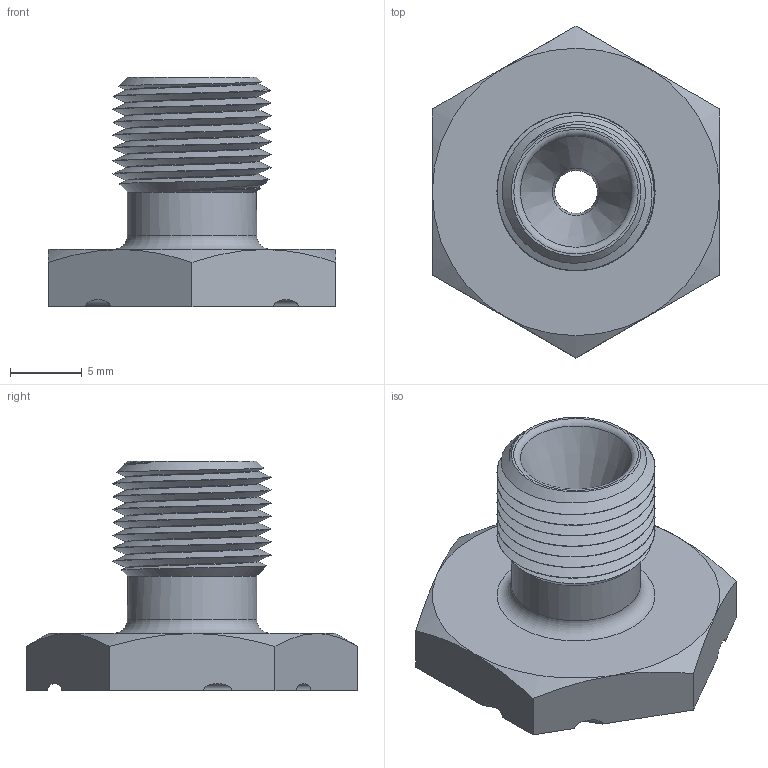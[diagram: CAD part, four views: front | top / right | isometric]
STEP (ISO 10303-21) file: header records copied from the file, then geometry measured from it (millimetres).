
FILE_DESCRIPTION(/* description */ ('CAx-IF Rec.Pracs.---Representation and Presentation of Product Manufacturing Information (PMI)---4.0---2014-10-13','CAx-IF Rec.Pracs.---3D Tessellated Geometry---0.4---2014-09-14','2;1'),/* implementation_level */ '2;1');
FILE_NAME(/* name */ 'czesc_gwintowana_SR_section2',/* time_stamp */ '2020-03-20T17:43:28+01:00',/* author */ (''),/* organization */ (''),/* preprocessor_version */ 'ST-DEVELOPER v16.7',/* originating_system */ 'SIEMENS PLM Software NX 1847',/* authorisation */ $);
FILE_SCHEMA (('AP242_MANAGED_MODEL_BASED_3D_ENGINEERING_MIM_LF { 1 0 10303 442 1 1 4 }'));
Length unit declared in the file: millimetre
Products named in the file (1): czesc_gwintowana_SR_section2
Bounding box: 20 x 23.09 x 16 mm (x, y, z)
Volume: 2036.7 mm3; surface area: 1746.8 mm2
Topology: 1 solids, 1 shells, 34 faces, 84 edges, 53 vertices
Faces by surface type: plane 12, cone 10, cylinder 7, torus 3, bspline 2
Full cylindrical faces by diameter (mm): 3 x1, 9 x1
Entity records: 2137 total; most frequent: CARTESIAN_POINT 1099, DIRECTION 154, ORIENTED_EDGE 138, AXIS2_PLACEMENT_3D 73, EDGE_CURVE 69, VERTEX_POINT 47, EDGE_LOOP 44, FACE_BOUND 44
